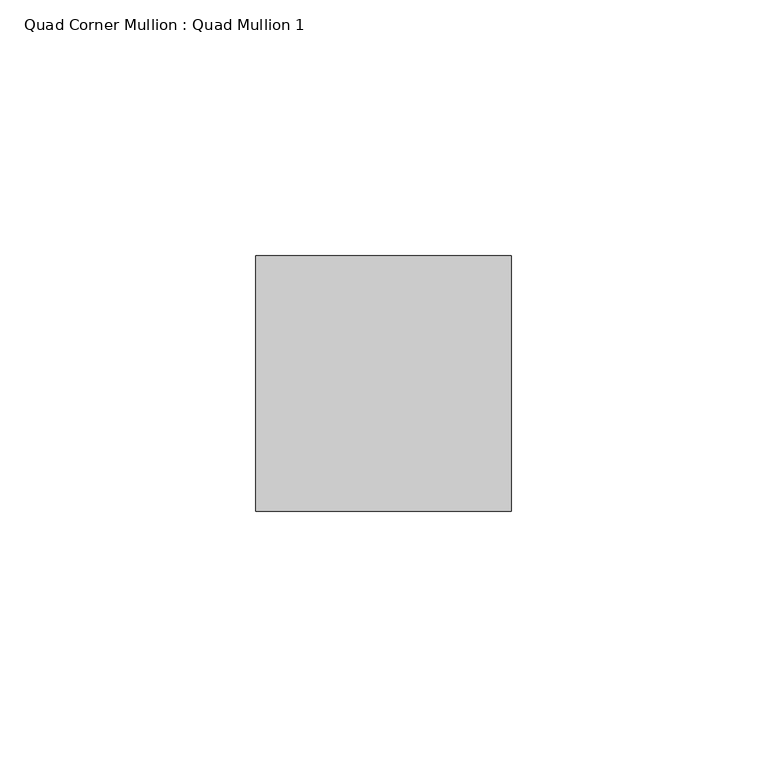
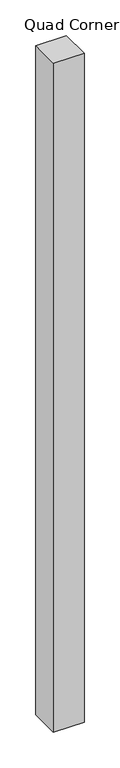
"""IFC4 building model written with IfcOpenShell, lengths in millimetres: member geometry, Quad Corner Mullion : Quad Mullion 1."""

from ifc_helpers import new_model, si_unit, frame, origin, place, context, project, spatial, polyline, outline, extrude, source, transform, mapped, element, save


def quad_corner_mullion_quad_mullion_1_41d86691(model_context):
    return source(origin(), model_context, "Body", "SweptSolid", [
        extrude(outline(polyline([(25.0, -25.0), (-25.0, -25.0), (-25.0, 25.0), (25.0, 25.0), (25.0, -25.0)])), frame((0.0, 0.0, -1150.0), z_axis=(0.0, 0.0, 1.0), x_axis=(1.0, 0.0, 0.0)), (0.0, 0.0, 1.0), 1150.0),
    ])


if __name__ == "__main__":
    model = new_model("IFC4")
    model_context = context("Model", 3, world=origin())
    ifc_project = project(units=[si_unit("LENGTHUNIT", "METRE", prefix="MILLI")], contexts=[model_context])
    site = spatial("IfcSite", under=ifc_project)
    building = spatial("IfcBuilding", under=site)
    placement = place(None, origin())
    quad_corner_mullion_quad_mullion_1_shape = quad_corner_mullion_quad_mullion_1_41d86691(model_context)
    element("IfcMember", 1, ObjectType="Quad Corner Mullion : Quad Mullion 1", at=placement, inside=building, context=model_context, shape_type="MappedRepresentation", body=[
        mapped(quad_corner_mullion_quad_mullion_1_shape, transform((0.0, 0.0, 0.0), x_axis=(1.0, 0.0, 0.0), y_axis=(0.0, 1.0, 0.0), z_axis=(0.0, 0.0, 1.0))),
    ])
    save(model, "model.ifc")
